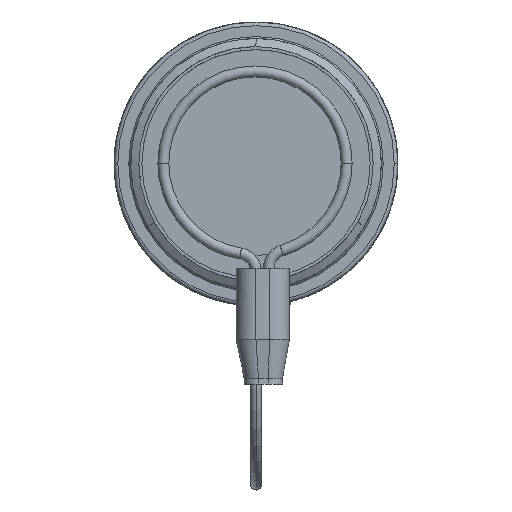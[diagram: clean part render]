
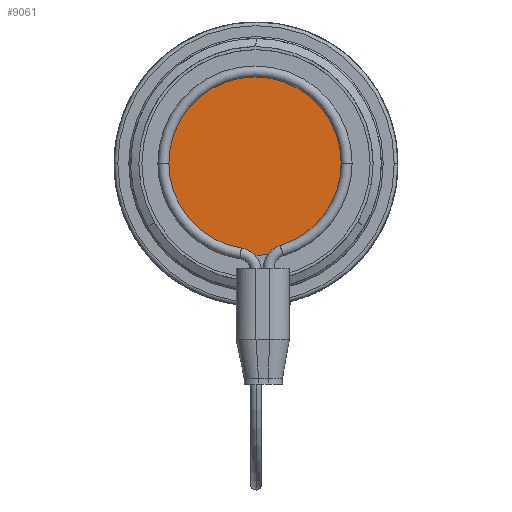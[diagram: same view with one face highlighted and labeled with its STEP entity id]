
A CAD part, top view. The second image highlights one B-rep face of the part: STEP entity #9061.
In plain terms, the highlighted planar face has unit normal (0, 0, 1) as drawn and (0, 0, -1) by its records, which use the part's own axes.
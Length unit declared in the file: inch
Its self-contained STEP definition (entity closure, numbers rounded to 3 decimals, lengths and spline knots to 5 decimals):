
#3253 = AXIS2_PLACEMENT_3D ( 'NONE', #46814, #53588, #25961 ) ;
#9061 = ADVANCED_FACE ( 'NONE', ( #23212 ), #36903, .T. ) ;
#10498 = EDGE_CURVE ( 'NONE', #45763, #43850, #35335, .T. ) ;
#14286 = DIRECTION ( 'NONE',  ( 0., 0., -1. ) ) ;
#17180 = ORIENTED_EDGE ( 'NONE', *, *, #56964, .T. ) ;
#21921 = EDGE_LOOP ( 'NONE', ( #33653, #17180 ) ) ;
#23212 = FACE_OUTER_BOUND ( 'NONE', #21921, .T. ) ;
#25961 = DIRECTION ( 'NONE',  ( -1., 0., 0. ) ) ;
#28753 = DIRECTION ( 'NONE',  ( -1., 0., 0. ) ) ;
#30736 = CIRCLE ( 'NONE', #3253, 0.5 ) ;
#33653 = ORIENTED_EDGE ( 'NONE', *, *, #10498, .T. ) ;
#34776 = DIRECTION ( 'NONE',  ( -1., 0., 0. ) ) ;
#35335 = CIRCLE ( 'NONE', #44786, 0.5 ) ;
#36843 = DIRECTION ( 'NONE',  ( 0., 0., -1. ) ) ;
#36903 = PLANE ( 'NONE',  #39046 ) ;
#39046 = AXIS2_PLACEMENT_3D ( 'NONE', #54990, #14286, #34776 ) ;
#43339 = CARTESIAN_POINT ( 'NONE',  ( 0.5, 0., -0.38 ) ) ;
#43850 = VERTEX_POINT ( 'NONE', #43339 ) ;
#44786 = AXIS2_PLACEMENT_3D ( 'NONE', #46044, #36843, #28753 ) ;
#45763 = VERTEX_POINT ( 'NONE', #54274 ) ;
#46044 = CARTESIAN_POINT ( 'NONE',  ( 0., 0., -0.38 ) ) ;
#46814 = CARTESIAN_POINT ( 'NONE',  ( 0., 0., -0.38 ) ) ;
#53588 = DIRECTION ( 'NONE',  ( 0., 0., -1. ) ) ;
#54274 = CARTESIAN_POINT ( 'NONE',  ( -0.5, 0., -0.38 ) ) ;
#54990 = CARTESIAN_POINT ( 'NONE',  ( 0., 0.5, -0.38 ) ) ;
#56964 = EDGE_CURVE ( 'NONE', #43850, #45763, #30736, .T. ) ;
